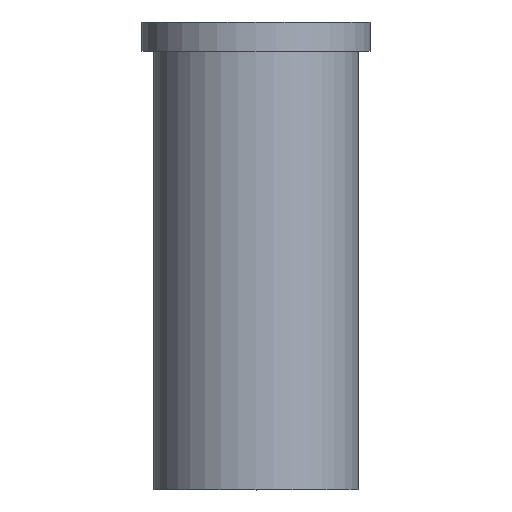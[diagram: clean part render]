
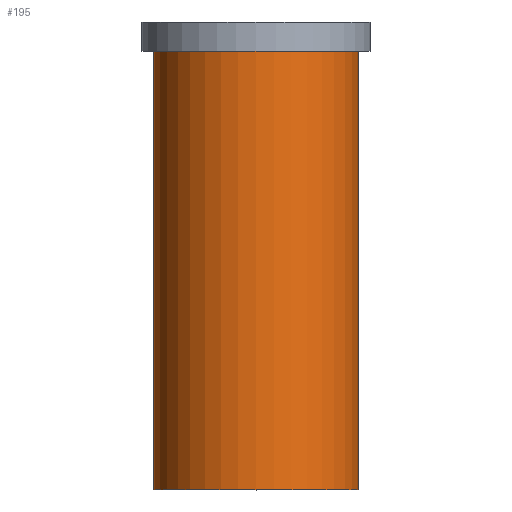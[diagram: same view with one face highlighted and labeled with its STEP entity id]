
A CAD part, top view. The second image highlights one B-rep face of the part: STEP entity #195.
In plain terms, the highlighted cylindrical face has radius 21 mm (diameter 42 mm), a full revolution.
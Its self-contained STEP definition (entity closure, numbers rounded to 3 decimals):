
#32=ORIENTED_EDGE('',*,*,#50,.T.);
#33=ORIENTED_EDGE('',*,*,#49,.F.);
#49=EDGE_CURVE('',#59,#59,#69,.T.);
#50=EDGE_CURVE('',#60,#60,#70,.T.);
#59=VERTEX_POINT('',#280);
#60=VERTEX_POINT('',#283);
#69=CIRCLE('',#213,21.);
#70=CIRCLE('',#215,21.);
#82=EDGE_LOOP('',(#32));
#83=EDGE_LOOP('',(#33));
#102=FACE_BOUND('',#82,.T.);
#103=FACE_BOUND('',#83,.T.);
#117=CYLINDRICAL_SURFACE('',#214,21.);
#195=ADVANCED_FACE('',(#102,#103),#117,.T.);
#213=AXIS2_PLACEMENT_3D('',#279,#241,#242);
#214=AXIS2_PLACEMENT_3D('',#281,#243,#244);
#215=AXIS2_PLACEMENT_3D('',#282,#245,#246);
#241=DIRECTION('',(0.,-1.,0.));
#242=DIRECTION('',(0.,0.,-1.));
#243=DIRECTION('',(0.,-1.,0.));
#244=DIRECTION('',(0.,0.,-1.));
#245=DIRECTION('',(0.,-1.,0.));
#246=DIRECTION('',(0.,0.,-1.));
#279=CARTESIAN_POINT('',(0.,0.,0.));
#280=CARTESIAN_POINT('',(0.,0.,-21.));
#281=CARTESIAN_POINT('',(0.,0.,0.));
#282=CARTESIAN_POINT('',(0.,90.,0.));
#283=CARTESIAN_POINT('',(0.,90.,-21.));
